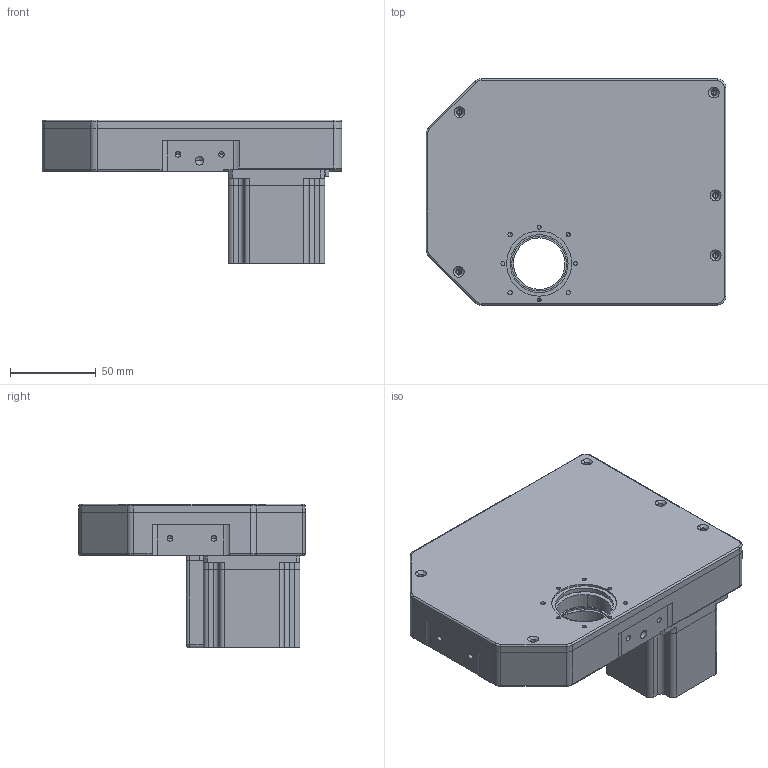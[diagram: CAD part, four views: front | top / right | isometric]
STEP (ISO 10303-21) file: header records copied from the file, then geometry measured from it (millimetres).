
FILE_DESCRIPTION (( 'STEP AP214' ), '1' );
FILE_NAME ('VFW 7P.STEP', '2025-12-24T03:17:47', ( '' ), ( '' ), 'SwSTEP 2.0', 'SolidWorks 2023', '' );
FILE_SCHEMA (( 'AUTOMOTIVE_DESIGN' ));
Length unit declared in the file: millimetre
Products named in the file (7): VFW 7P; CABLE COVER 10P; LOWER COVER 7 POS; INNER RING 7 POS; MOTOR CONTROL BOARD; NEMA-23 MOTOR; TOP COVER 7POS
Assembly tree (6 placements, depth 2):
  VFW 7P
    LOWER COVER 7 POS
    INNER RING 7 POS
    TOP COVER 7POS
    MOTOR CONTROL BOARD
    NEMA-23 MOTOR
    CABLE COVER 10P
Bounding box: 175 x 132 x 84 mm (x, y, z)
Volume: 349639.8 mm3; surface area: 179969.8 mm2
Topology: 16 solids, 22 shells, 3836 faces, 10471 edges, 6719 vertices
Faces by surface type: plane 2539, cylinder 871, cone 216, torus 105, bspline 85, sphere 20
Entity records: 128689 total; most frequent: CARTESIAN_POINT 30808, ORIENTED_EDGE 20748, DIRECTION 19633, EDGE_CURVE 10382, VECTOR 7961, LINE 7961, VERTEX_POINT 6719, AXIS2_PLACEMENT_3D 5836
